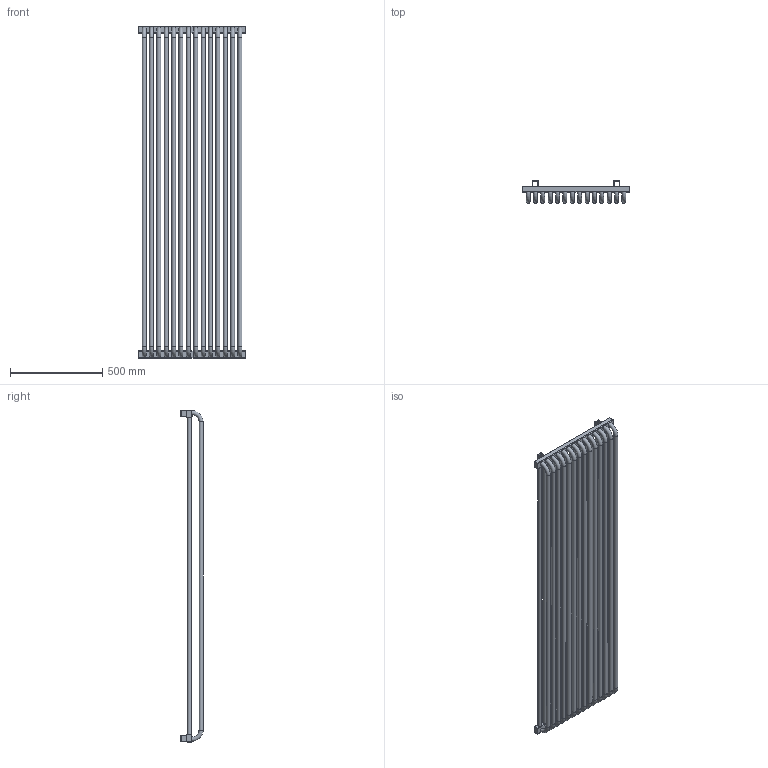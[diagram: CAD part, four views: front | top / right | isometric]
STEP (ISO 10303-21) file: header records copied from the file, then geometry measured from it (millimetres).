
FILE_DESCRIPTION((''),'2;1');
FILE_NAME('Z:\R\G\P\RGPH10 - Grzejnik Delfin\Work\Inventor\Marketing\STEP\DF-18-58-ZX.stp','2012-07-25T10:48:32',('PioRo'),(''),'Autodesk Inventor 2012','Autodesk Inventor 2012','');
FILE_SCHEMA(('AUTOMOTIVE_DESIGN { 1 0 10303 214 1 1 1 1 }'));
Length unit declared in the file: millimetre
Products named in the file (1): Część2
Bounding box: 580 x 120 x 1800 mm (x, y, z)
Volume: 20259063.3 mm3; surface area: 3595439.3 mm2
Topology: 5 solids, 5 shells, 230 faces, 577 edges, 354 vertices
Faces by surface type: plane 103, cylinder 83, torus 44
Full cylindrical faces by diameter (mm): 0.1 x4, 18.631 x3, 22 x28
Entity records: 8629 total; most frequent: CARTESIAN_POINT 2919, DIRECTION 1130, ORIENTED_EDGE 1028, EDGE_CURVE 514, AXIS2_PLACEMENT_3D 413, VERTEX_POINT 354, EDGE_LOOP 352, VECTOR 304
